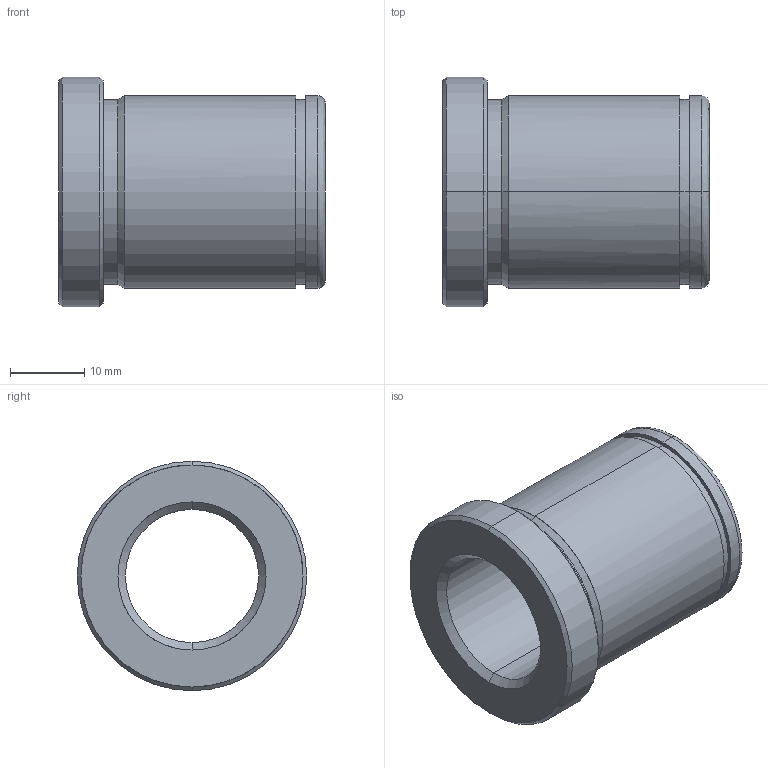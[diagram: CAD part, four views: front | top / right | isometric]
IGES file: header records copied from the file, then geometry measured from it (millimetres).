
Start section: START RECORD GO HERE.
Global section: file name: 553-18X36.igs; native system: DASSAULT SYSTEMES CATIA V5 R20 - www.3ds.com; preprocessor: CATIA Version 5 Release 20 ; author: Utente; organization: NB04-ASUS; date: 20210523.193046; units: millimetre
Bounding box: 36 x 31 x 31 mm (x, y, z)
Surface area: 6029.9 mm2 (no closed solid volume)
Topology: 0 solids, 0 shells, 29 faces, 184 edges, 184 vertices
Faces by surface type: revolution 24, plane 5
